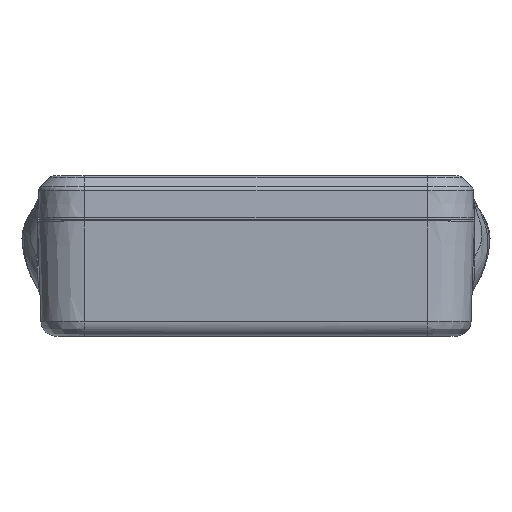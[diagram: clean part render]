
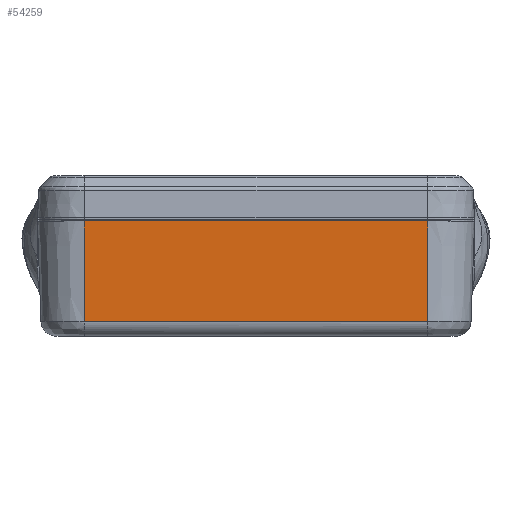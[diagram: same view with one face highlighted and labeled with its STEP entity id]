
A CAD part, top view. The second image highlights one B-rep face of the part: STEP entity #54259.
In plain terms, the highlighted planar face has unit normal (0, -0.035, 0.999).
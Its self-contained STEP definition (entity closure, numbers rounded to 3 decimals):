
#53361 = VERTEX_POINT ( 'NONE', #103060 ) ;
#53365 = EDGE_CURVE ( 'NONE', #53367, #53361, #103059, .T. ) ;
#53367 = VERTEX_POINT ( 'NONE', #103239 ) ;
#54158 = VERTEX_POINT ( 'NONE', #104523 ) ;
#54160 = EDGE_CURVE ( 'NONE', #53361, #54158, #104524, .T. ) ;
#54162 = EDGE_LOOP ( 'NONE', ( #54261, #54263, #54269, #54271 ) ) ;
#54259 = ADVANCED_FACE ( 'NONE', ( #104666 ), #104665, .T. ) ;
#54261 = ORIENTED_EDGE ( 'NONE', *, *, #54160, .T. ) ;
#54263 = ORIENTED_EDGE ( 'NONE', *, *, #54265, .T. ) ;
#54265 = EDGE_CURVE ( 'NONE', #54158, #54267, #104660, .T. ) ;
#54267 = VERTEX_POINT ( 'NONE', #104656 ) ;
#54269 = ORIENTED_EDGE ( 'NONE', *, *, #54270, .T. ) ;
#54270 = EDGE_CURVE ( 'NONE', #54267, #53367, #104655, .T. ) ;
#54271 = ORIENTED_EDGE ( 'NONE', *, *, #53365, .T. ) ;
#103056 = DIRECTION ( 'NONE',  ( -1., 0., 0. ) ) ;
#103057 = VECTOR ( 'NONE', #103056, 1000. ) ;
#103058 = CARTESIAN_POINT ( 'NONE',  ( 69.983, 4.6, 0. ) ) ;
#103059 = LINE ( 'NONE', #103058, #103057 ) ;
#103060 = CARTESIAN_POINT ( 'NONE',  ( 14.993, 4.6, 0. ) ) ;
#103239 = CARTESIAN_POINT ( 'NONE',  ( 124.973, 4.6, 0. ) ) ;
#104519 = DIRECTION ( 'NONE',  ( 0., -0.999, -0.035 ) ) ;
#104520 = VECTOR ( 'NONE', #104519, 1000. ) ;
#104521 = CARTESIAN_POINT ( 'NONE',  ( 14.993, -11.435, -0.56 ) ) ;
#104523 = CARTESIAN_POINT ( 'NONE',  ( 14.993, -27.471, -1.12 ) ) ;
#104524 = LINE ( 'NONE', #104521, #104520 ) ;
#104652 = DIRECTION ( 'NONE',  ( 0., 0.999, 0.035 ) ) ;
#104653 = VECTOR ( 'NONE', #104652, 1000. ) ;
#104654 = CARTESIAN_POINT ( 'NONE',  ( 124.973, -11.435, -0.56 ) ) ;
#104655 = LINE ( 'NONE', #104654, #104653 ) ;
#104656 = CARTESIAN_POINT ( 'NONE',  ( 124.973, -27.471, -1.12 ) ) ;
#104657 = DIRECTION ( 'NONE',  ( 1., 0., 0. ) ) ;
#104658 = VECTOR ( 'NONE', #104657, 1000. ) ;
#104659 = CARTESIAN_POINT ( 'NONE',  ( 69.983, -27.471, -1.12 ) ) ;
#104660 = LINE ( 'NONE', #104659, #104658 ) ;
#104661 = DIRECTION ( 'NONE',  ( 1., 0., 0. ) ) ;
#104662 = DIRECTION ( 'NONE',  ( 0., -0.035, 0.999 ) ) ;
#104663 = CARTESIAN_POINT ( 'NONE',  ( 12.793, -28.112, -1.142 ) ) ;
#104664 = AXIS2_PLACEMENT_3D ( 'NONE', #104663, #104662, #104661 ) ;
#104665 = PLANE ( 'NONE',  #104664 ) ;
#104666 = FACE_OUTER_BOUND ( 'NONE', #54162, .T. ) ;
